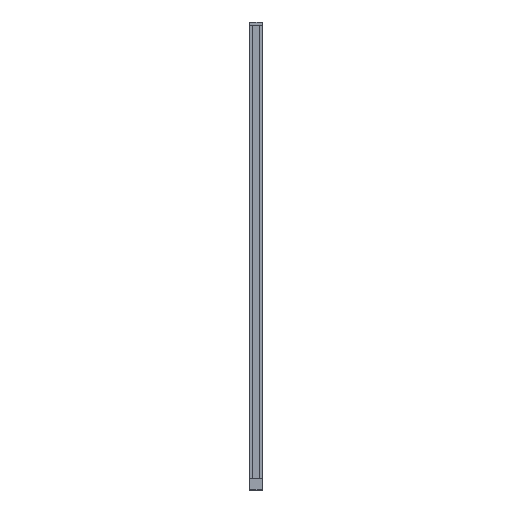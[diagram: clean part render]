
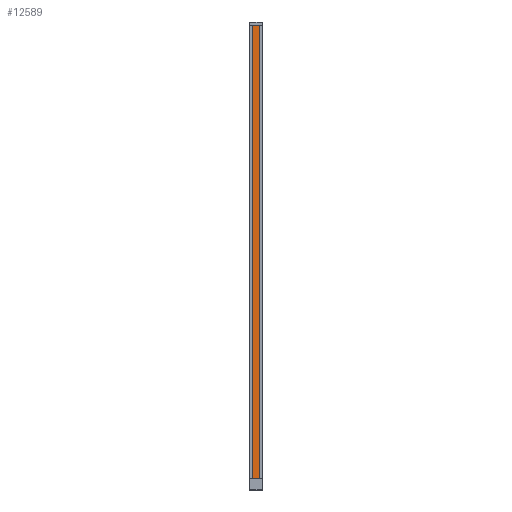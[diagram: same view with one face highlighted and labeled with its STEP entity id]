
A CAD part, top view. The second image highlights one B-rep face of the part: STEP entity #12589.
In plain terms, the highlighted planar face has unit normal (0, 0, 1).
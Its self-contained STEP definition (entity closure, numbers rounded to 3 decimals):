
#49 = EDGE_CURVE ( 'NONE', #3285, #14488, #25283, .T. ) ;
#841 = DIRECTION ( 'NONE',  ( 0., -1., 0. ) ) ;
#901 = EDGE_CURVE ( 'NONE', #18554, #26755, #16643, .T. ) ;
#1240 = PLANE ( 'NONE',  #6583 ) ;
#3285 = VERTEX_POINT ( 'NONE', #15942 ) ;
#3538 = DIRECTION ( 'NONE',  ( 0., 0., -1. ) ) ;
#5645 = EDGE_LOOP ( 'NONE', ( #12884, #17364, #14908, #20956 ) ) ;
#6583 = AXIS2_PLACEMENT_3D ( 'NONE', #25968, #3538, #22135 ) ;
#7390 = LINE ( 'NONE', #15744, #11402 ) ;
#8418 = CARTESIAN_POINT ( 'NONE',  ( 10., 1300., 39. ) ) ;
#11402 = VECTOR ( 'NONE', #24323, 1000. ) ;
#12589 = ADVANCED_FACE ( 'NONE', ( #17670 ), #1240, .F. ) ;
#12604 = EDGE_CURVE ( 'NONE', #3285, #18554, #7390, .T. ) ;
#12884 = ORIENTED_EDGE ( 'NONE', *, *, #901, .F. ) ;
#14488 = VERTEX_POINT ( 'NONE', #15769 ) ;
#14585 = DIRECTION ( 'NONE',  ( 0., -1., 0. ) ) ;
#14908 = ORIENTED_EDGE ( 'NONE', *, *, #49, .T. ) ;
#15471 = CARTESIAN_POINT ( 'NONE',  ( -10., 1300., 39. ) ) ;
#15744 = CARTESIAN_POINT ( 'NONE',  ( 0., 1300., 39. ) ) ;
#15769 = CARTESIAN_POINT ( 'NONE',  ( -10., 0., 39. ) ) ;
#15942 = CARTESIAN_POINT ( 'NONE',  ( -10., 1300., 39. ) ) ;
#16643 = LINE ( 'NONE', #8418, #22031 ) ;
#17364 = ORIENTED_EDGE ( 'NONE', *, *, #12604, .F. ) ;
#17670 = FACE_OUTER_BOUND ( 'NONE', #5645, .T. ) ;
#18554 = VERTEX_POINT ( 'NONE', #22141 ) ;
#19951 = CARTESIAN_POINT ( 'NONE',  ( 0., 0., 39. ) ) ;
#20956 = ORIENTED_EDGE ( 'NONE', *, *, #25585, .T. ) ;
#21994 = VECTOR ( 'NONE', #841, 1000. ) ;
#22031 = VECTOR ( 'NONE', #14585, 1000. ) ;
#22117 = LINE ( 'NONE', #19951, #22841 ) ;
#22135 = DIRECTION ( 'NONE',  ( -1., 0., 0. ) ) ;
#22141 = CARTESIAN_POINT ( 'NONE',  ( 10., 1300., 39. ) ) ;
#22841 = VECTOR ( 'NONE', #26217, 1000. ) ;
#24145 = CARTESIAN_POINT ( 'NONE',  ( 10., 0., 39. ) ) ;
#24323 = DIRECTION ( 'NONE',  ( 1., 0., 0. ) ) ;
#25283 = LINE ( 'NONE', #15471, #21994 ) ;
#25585 = EDGE_CURVE ( 'NONE', #14488, #26755, #22117, .T. ) ;
#25968 = CARTESIAN_POINT ( 'NONE',  ( 0., 1300., 39. ) ) ;
#26217 = DIRECTION ( 'NONE',  ( 1., 0., 0. ) ) ;
#26755 = VERTEX_POINT ( 'NONE', #24145 ) ;
